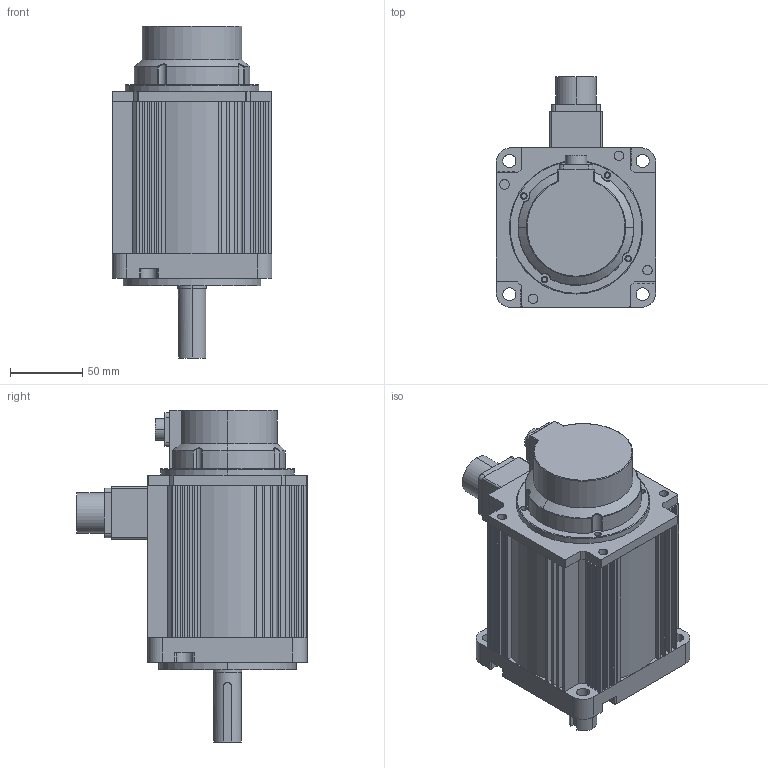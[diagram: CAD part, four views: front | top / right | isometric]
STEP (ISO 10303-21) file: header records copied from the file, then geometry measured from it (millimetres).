
FILE_DESCRIPTION (( 'STEP AP203' ), '1' );
FILE_NAME ('110A-064.STEP', '2024-09-10T11:51:25', ( '' ), ( '' ), 'SwSTEP 2.0', 'SolidWorks 2018', '' );
FILE_SCHEMA (( 'CONFIG_CONTROL_DESIGN' ));
Length unit declared in the file: millimetre
Products named in the file (10): 110A-064; 蚐猾; ヶ傷裔; 18-10; 綴傷裔; 諉盄釱; SC-CMV1-R10P-E; 蛌粣; 110A綴欶; 儂褲 -6.4
Assembly tree (9 placements, depth 2):
  110A-064
    110A綴欶
    18-10
    SC-CMV1-R10P-E
    綴傷裔
    儂褲 -6.4
    諉盄釱
    ヶ傷裔
    蚐猾
    蛌粣
Bounding box: 110 x 159 x 229 mm (x, y, z)
Volume: 607294.1 mm3; surface area: 270272.4 mm2
Topology: 9 solids, 9 shells, 770 faces, 2039 edges, 1322 vertices
Faces by surface type: plane 347, cylinder 341, cone 39, torus 22, sphere 16, bspline 5
Entity records: 25949 total; most frequent: CARTESIAN_POINT 5206, DIRECTION 4261, ORIENTED_EDGE 4018, EDGE_CURVE 2009, AXIS2_PLACEMENT_3D 1540, VERTEX_POINT 1314, LINE 1181, VECTOR 1181
